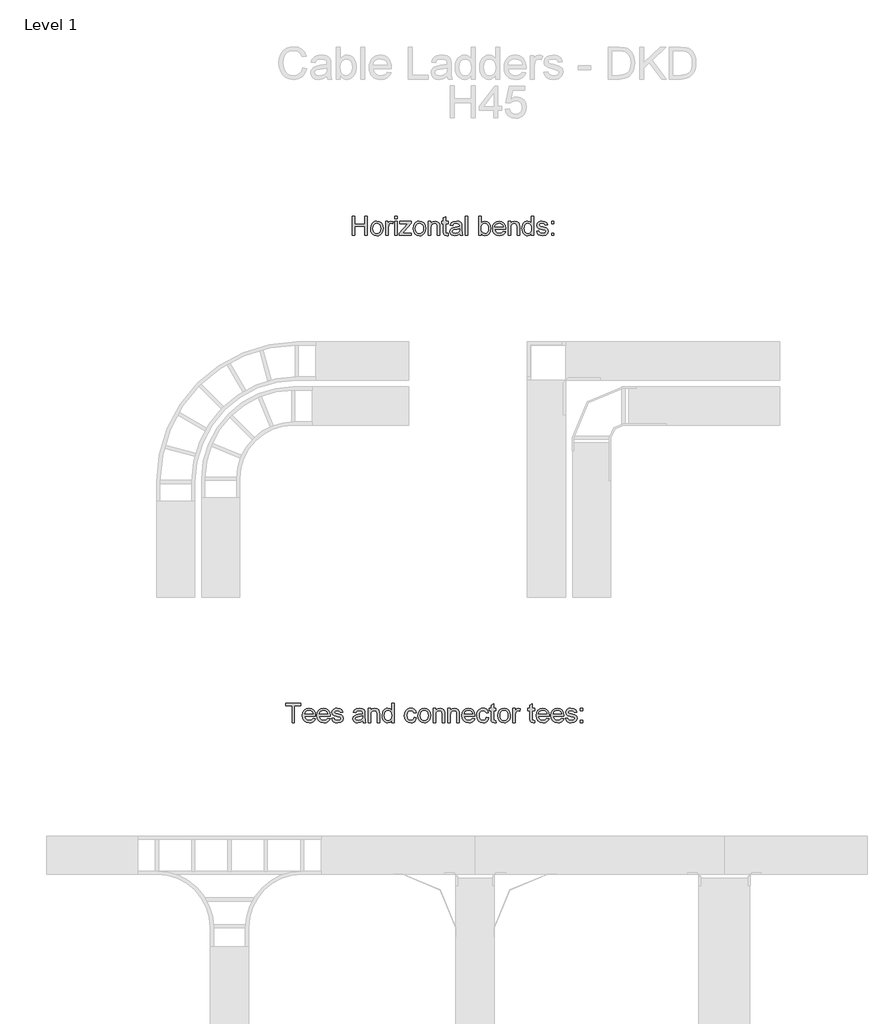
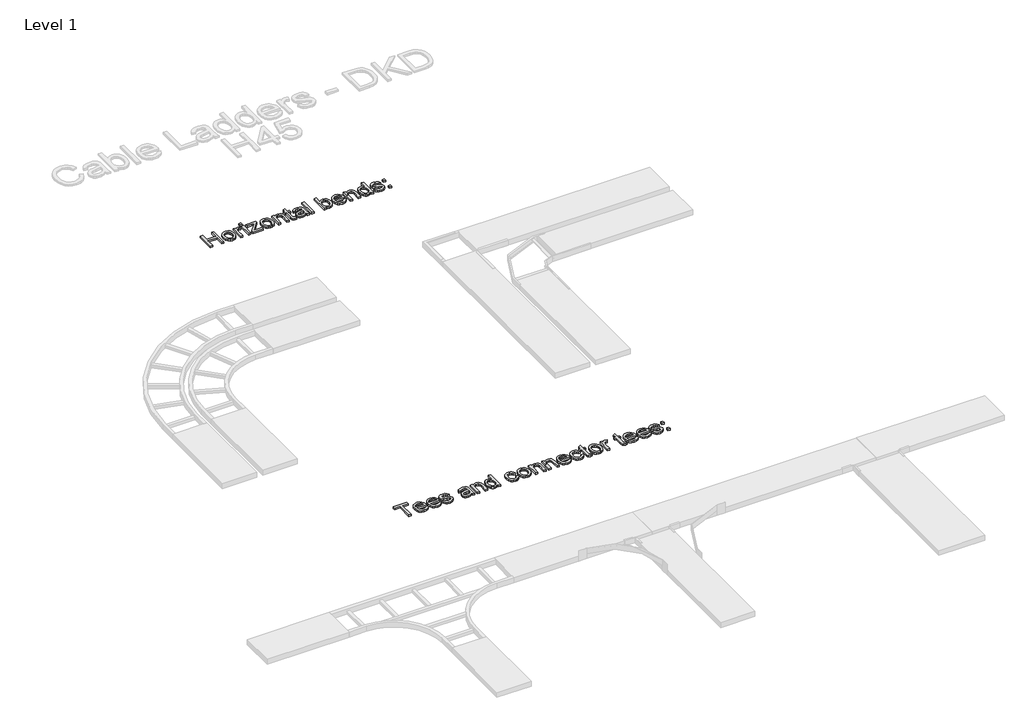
# One storey, part 80 of 106: 2 proxies.
"""IFC4 building model written with IfcOpenShell, lengths in millimetres."""

import ifcopenshell
import ifcopenshell.guid

model = None  # the IFC model being written
_history = None  # IfcOwnerHistory: only IFC2X3 demands one
_inside = {}  # id of a spatial element -> (the spatial element, [elements in it])
_under = {}  # id of a project, library or spatial element -> (it, [spatial elements below it])
_declared = {}  # id of a project -> (the project, [libraries it declares])
_typed = {}  # id of a type object -> (the type object, [elements of that type])
_made_of = {}  # id of a material, layer set ... -> (it, [elements and type objects made of it])


def new_model(schema):
    """Start an empty IFC model of exactly this schema.

    Asked for "IFC4X3", IfcOpenShell would pick the latest addendum, in which some entities
    have other attributes; the version numbers below select the first issue.
    IFC2X3 requires an IfcOwnerHistory on every rooted entity: one is made here for all.
    """
    global model, _history
    if schema == "IFC4X3":
        model = ifcopenshell.file(schema_version=(4, 3, 0, 0))
    else:
        model = ifcopenshell.file(schema=schema)
    _inside.clear()
    _under.clear()
    _declared.clear()
    _typed.clear()
    _made_of.clear()
    _history = None
    if model.schema == "IFC2X3":
        org = make("IfcOrganization", Name="unknown")
        user = make(
            "IfcPersonAndOrganization",
            ThePerson=make("IfcPerson", FamilyName="unknown"),
            TheOrganization=org,
        )
        app = make(
            "IfcApplication",
            ApplicationDeveloper=org,
            Version="unknown",
            ApplicationFullName="unknown",
            ApplicationIdentifier="unknown",
        )
        _history = make(
            "IfcOwnerHistory",
            OwningUser=user,
            OwningApplication=app,
            ChangeAction="ADDED",
            CreationDate=0,
        )
    return model


def make(cls, **values):
    """One entity of the class cls with the attributes given. An attribute that is None is left unset."""
    return model.create_entity(
        cls, **{name: value for name, value in values.items() if value is not None}
    )


def rooted(cls, **values):
    """An entity with a GlobalId (a new one), such as an element, a storey or a relation."""
    return make(cls, GlobalId=ifcopenshell.guid.new(), OwnerHistory=_history, **values)


def si_unit(unit_type, name, prefix=None):
    """IfcSIUnit, for example si_unit("LENGTHUNIT", "METRE", prefix="MILLI")."""
    return make("IfcSIUnit", UnitType=unit_type, Prefix=prefix, Name=name)


def assignment(units):
    """IfcUnitAssignment: the units of a project."""
    return None if units is None else make("IfcUnitAssignment", Units=units)


def point(xyz):
    """IfcCartesianPoint."""
    return None if xyz is None else make("IfcCartesianPoint", Coordinates=xyz)


def direction(xyz):
    """IfcDirection."""
    return None if xyz is None else make("IfcDirection", DirectionRatios=xyz)


def frame(location, z_axis=None, x_axis=None):
    """IfcAxis2Placement3D, a coordinate frame: its origin and axes. An axis left out is left unset."""
    return make(
        "IfcAxis2Placement3D",
        Location=point(location),
        Axis=direction(z_axis),
        RefDirection=direction(x_axis),
    )


def origin():
    """The frame at (0, 0, 0) with its axes left unset."""
    return frame((0.0, 0.0, 0.0))


def origin_with_axes():
    """The frame at (0, 0, 0) with the z axis (0, 0, 1) and the x axis (1, 0, 0) written out."""
    return frame((0.0, 0.0, 0.0), z_axis=(0.0, 0.0, 1.0), x_axis=(1.0, 0.0, 0.0))


def place(relative_to, where):
    """IfcLocalPlacement: puts the frame where relative to a parent placement (None: the world)."""
    return make(
        "IfcLocalPlacement", PlacementRelTo=relative_to, RelativePlacement=where
    )


def context(
    kind, dimensions, precision=None, world=None, true_north=None, identifier=None
):
    """IfcGeometricRepresentationContext, for example the 3D "Model" context."""
    return make(
        "IfcGeometricRepresentationContext",
        ContextIdentifier=identifier,
        ContextType=kind,
        CoordinateSpaceDimension=dimensions,
        Precision=precision,
        WorldCoordinateSystem=world,
        TrueNorth=true_north,
    )


def project(units=None, contexts=None):
    """IfcProject with its units and contexts."""
    return rooted(
        "IfcProject",
        Name="project",
        RepresentationContexts=contexts,
        UnitsInContext=assignment(units),
    )


def spatial(cls, under=None, at=None, **own):
    """A site, building, storey or space (cls), placed at a placement, below another one or the project."""
    s = rooted(cls, ObjectPlacement=at, **own)
    if under is not None:
        _under.setdefault(under.id(), (under, []))[1].append(s)
    return s


def polyline(points):
    """IfcPolyline through the points."""
    return make("IfcPolyline", Points=[point(p) for p in points])


def outline(outer, holes=None, kind="AREA"):
    """IfcArbitraryClosedProfileDef: a profile drawn as a closed curve; with holes, ...WithVoids."""
    if holes is None:
        return make("IfcArbitraryClosedProfileDef", ProfileType=kind, OuterCurve=outer)
    return make(
        "IfcArbitraryProfileDefWithVoids",
        ProfileType=kind,
        OuterCurve=outer,
        InnerCurves=holes,
    )


def extrude(swept, where, along, depth):
    """IfcExtrudedAreaSolid: the profile swept, set in the frame where, extruded along a direction by depth."""
    return make(
        "IfcExtrudedAreaSolid",
        SweptArea=swept,
        Position=where,
        ExtrudedDirection=direction(along),
        Depth=depth,
    )


def shape(context_of_items, identifier, shape_type, items):
    """IfcShapeRepresentation: the items that make up one representation, for example the "Body"."""
    return make(
        "IfcShapeRepresentation",
        ContextOfItems=context_of_items,
        RepresentationIdentifier=identifier,
        RepresentationType=shape_type,
        Items=items,
    )


def made_of(thing, what):
    """Note that an element or type object is made of a material, layer set ...; save() writes the relation."""
    if what is not None:
        _made_of.setdefault(what.id(), (what, []))[1].append(thing)
    return thing


def element(
    cls,
    number,
    at=None,
    inside=None,
    cuts=None,
    type_object=None,
    material=None,
    context=None,
    identifier="Body",
    shape_type=None,
    held_by="IfcProductDefinitionShape",
    body=None,
    shapes=None,
    **own,
):
    """One element of the class cls, such as IfcWall. Its Tag is "e" and its number.

    at: its placement. inside: the storey or other place that contains it. cuts: it is an
    opening in that element (IfcRelVoidsElement). A single representation is given by context,
    identifier, shape_type and body (its items); several are given by shapes. held_by: the class
    of the entity that holds the representations. save() writes the other relations.
    """
    e = rooted(cls, Tag="e%d" % number, ObjectPlacement=at, **own)
    if body is not None:
        shapes = [shape(context, identifier, shape_type, body)]
    if shapes is not None:
        e.Representation = make(held_by, Representations=shapes)
    if inside is not None:
        _inside.setdefault(inside.id(), (inside, []))[1].append(e)
    if cuts is not None:
        rooted(
            "IfcRelVoidsElement", RelatingBuildingElement=cuts, RelatedOpeningElement=e
        )
    if type_object is not None:
        _typed.setdefault(type_object.id(), (type_object, []))[1].append(e)
    return made_of(e, material)


def aggregate(whole, parts):
    """IfcRelAggregates: a whole, such as a stair, and the parts it consists of."""
    return rooted("IfcRelAggregates", RelatingObject=whole, RelatedObjects=parts)


def save(model, path):
    """Write the relations noted so far, then the file.

    IfcRelAggregates (storeys below a building ...), IfcRelContainedInSpatialStructure (elements
    in a storey), IfcRelDefinesByType, IfcRelAssociatesMaterial and IfcRelDeclares: one each for
    every whole, place, type object, material and project.
    """
    for whole, parts in _under.values():
        aggregate(whole, parts)
    for where, things in _inside.values():
        rooted(
            "IfcRelContainedInSpatialStructure",
            RelatedElements=things,
            RelatingStructure=where,
        )
    for kind, things in _typed.values():
        rooted("IfcRelDefinesByType", RelatedObjects=things, RelatingType=kind)
    for what, things in _made_of.values():
        rooted("IfcRelAssociatesMaterial", RelatedObjects=things, RelatingMaterial=what)
    for by, libraries in _declared.values():
        rooted("IfcRelDeclares", RelatingContext=by, RelatedDefinitions=libraries)
    model.write(path)


model = new_model("IFC4")

# Units and contexts
model_context = context("Model", 3, world=origin())
ifc_project = project(units=[si_unit("LENGTHUNIT", "METRE", prefix="MILLI")], contexts=[model_context])

# Site, building, storey
site = spatial("IfcSite", under=ifc_project)
building = spatial("IfcBuilding", under=site)
storey = spatial("IfcBuildingStorey", under=building, Name="Level 1", Elevation=0.0)

# Proxies
placement = place(None, origin())
element("IfcBuildingElementProxy", 1, Name="150mm Arial 2", ObjectType="150mm Arial 2", at=placement, inside=storey, context=model_context, shape_type="SweptSolid", body=[
    extrude(outline(polyline([(29365.8833156, 70274.2713912), (29365.8833156, 70424.9558564), (29384.7188737, 70424.9558564), (29384.7188737, 70363.7402924), (29464.7699959, 70363.7402924), (29464.7699959, 70424.9558564), (29483.605554, 70424.9558564), (29483.605554, 70274.2713912), (29464.7699959, 70274.2713912), (29464.7699959, 70344.9047343), (29384.7188737, 70344.9047343), (29384.7188737, 70274.2713912), (29365.8833156, 70274.2713912)])), origin_with_axes(), (0.0, 0.0, 1.0), 15.0),
    extrude(outline(polyline([(29509.5044465, 70329.6008433), (29513.5787396, 70356.281485), (29525.8016189, 70375.0342697), (29540.9031748, 70384.2221225), (29558.9845748, 70387.2847401), (29578.7720277, 70383.5553364), (29594.5771579, 70372.3671252), (29604.9376346, 70354.6030234), (29608.3911268, 70331.1459476), (29606.8644165, 70312.1172514), (29602.2842857, 70297.6318979), (29594.7840915, 70286.7839775), (29584.4971912, 70278.667581), (29572.2789104, 70273.6046051), (29558.9845748, 70271.9169464), (29538.9579987, 70275.6325546), (29523.1712626, 70286.779379), (29512.9211505, 70304.9159614), (29509.5044465, 70329.6008433)]), holes=[polyline([(29528.3400046, 70329.6376315), (29530.5197055, 70312.5908995), (29537.0588079, 70300.4461951), (29546.8996513, 70293.1759272), (29558.9845748, 70290.7525046), (29571.0143161, 70293.1897228), (29580.8367654, 70300.5013774), (29587.3758678, 70312.8070302), (29589.5555686, 70330.2262427), (29587.3620722, 70346.7763339), (29580.7815831, 70358.7554914), (29570.9453382, 70366.0257593), (29558.9845748, 70368.449182), (29546.8996513, 70366.0349564), (29537.0588079, 70358.7922796), (29530.5197055, 70346.6751664), (29528.3400046, 70329.6376315)])]), origin_with_axes(), (0.0, 0.0, 1.0), 15.0),
    extrude(outline(polyline([(29629.5811297, 70274.2713912), (29629.5811297, 70384.9302953), (29646.0622431, 70384.9302953), (29646.0622431, 70368.5595466), (29657.7608906, 70383.6427084), (29669.5331144, 70387.2847401), (29688.4422489, 70381.4722046), (29682.1514668, 70364.586421), (29668.907715, 70368.449182), (29658.2575312, 70364.7335738), (29651.4701084, 70354.4328779), (29648.4166879, 70332.4335346), (29648.4166879, 70274.2713912), (29629.5811297, 70274.2713912)])), origin_with_axes(), (0.0, 0.0, 1.0), 15.0),
    extrude(outline(polyline([(29700.2144728, 70406.1202983), (29700.2144728, 70424.9558564), (29719.0500309, 70424.9558564), (29719.0500309, 70406.1202983), (29700.2144728, 70406.1202983)])), origin_with_axes(), (0.0, 0.0, 1.0), 15.0),
    extrude(outline(polyline([(29700.2144728, 70274.2713912), (29700.2144728, 70384.9302953), (29719.0500309, 70384.9302953), (29719.0500309, 70274.2713912), (29700.2144728, 70274.2713912)])), origin_with_axes(), (0.0, 0.0, 1.0), 15.0),
    extrude(outline(polyline([(29735.5311443, 70274.2713912), (29735.5311443, 70292.0033034), (29800.5358929, 70366.0947372), (29781.2956645, 70366.0947372), (29740.2400339, 70366.0947372), (29740.2400339, 70384.9302953), (29827.3544903, 70384.9302953), (29827.3544903, 70368.9274285), (29769.7073817, 70303.186916), (29760.8782138, 70293.1069493), (29782.6568279, 70293.1069493), (29829.7089351, 70293.1069493), (29829.7089351, 70274.2713912), (29735.5311443, 70274.2713912)])), origin_with_axes(), (0.0, 0.0, 1.0), 15.0),
    extrude(outline(polyline([(29843.8356037, 70329.6008433), (29847.9098968, 70356.281485), (29860.1327761, 70375.0342697), (29875.234332, 70384.2221225), (29893.3157321, 70387.2847401), (29913.1031849, 70383.5553364), (29928.9083151, 70372.3671252), (29939.2687918, 70354.6030234), (29942.722284, 70331.1459476), (29941.1955737, 70312.1172514), (29936.6154429, 70297.6318979), (29929.1152487, 70286.7839775), (29918.8283484, 70278.667581), (29906.6100677, 70273.6046051), (29893.3157321, 70271.9169464), (29873.2891559, 70275.6325546), (29857.5024198, 70286.779379), (29847.2523077, 70304.9159614), (29843.8356037, 70329.6008433)]), holes=[polyline([(29862.6711619, 70329.6376315), (29864.8508627, 70312.5908995), (29871.3899651, 70300.4461951), (29881.2308085, 70293.1759272), (29893.3157321, 70290.7525046), (29905.3454733, 70293.1897228), (29915.1679226, 70300.5013774), (29921.707025, 70312.8070302), (29923.8867259, 70330.2262427), (29921.6932295, 70346.7763339), (29915.1127403, 70358.7554914), (29905.2764954, 70366.0257593), (29893.3157321, 70368.449182), (29881.2308085, 70366.0349564), (29871.3899651, 70358.7922796), (29864.8508627, 70346.6751664), (29862.6711619, 70329.6376315)])]), origin_with_axes(), (0.0, 0.0, 1.0), 15.0),
    extrude(outline(polyline([(29963.9122869, 70274.2713912), (29963.9122869, 70384.9302953), (29982.7478451, 70384.9302953), (29982.7478451, 70369.4792515), (29997.1504252, 70382.833368), (30016.8137178, 70387.2847401), (30034.6008123, 70383.6978907), (30046.7409182, 70374.2801116), (30052.3879068, 70360.4293545), (30053.3811882, 70342.2191957), (30053.3811882, 70274.2713912), (30034.54563, 70274.2713912), (30034.54563, 70339.6808099), (30032.3751262, 70356.3458643), (30024.7047866, 70365.1566381), (30011.7737345, 70368.449182), (30000.7418732, 70366.6005749), (29991.3378897, 70361.0547538), (29984.8953562, 70350.3401907), (29982.7478451, 70332.9853576), (29982.7478451, 70274.2713912), (29963.9122869, 70274.2713912)])), origin_with_axes(), (0.0, 0.0, 1.0), 15.0),
    extrude(outline(polyline([(30119.3056417, 70289.9799524), (30121.6600865, 70273.7195682), (30107.5702061, 70271.9169464), (30091.7880685, 70275.0439434), (30083.9153938, 70283.2477119), (30081.6345254, 70304.6216558), (30081.6345254, 70366.0947372), (30067.5078568, 70366.0947372), (30067.5078568, 70384.9302953), (30081.6345254, 70384.9302953), (30081.6345254, 70411.8224692), (30100.4700835, 70422.8957172), (30100.4700835, 70384.9302953), (30119.3056417, 70384.9302953), (30119.3056417, 70366.0947372), (30100.4700835, 70366.0947372), (30100.4700835, 70305.1734788), (30101.4633649, 70295.4613941), (30104.6823324, 70292.0216975), (30111.1018732, 70290.7525046), (30119.3056417, 70289.9799524)])), origin_with_axes(), (0.0, 0.0, 1.0), 15.0),
    extrude(outline(polyline([(30208.7745429, 70288.3980598), (30190.5092019, 70275.6325546), (30170.3308744, 70271.9169464), (30154.5901236, 70274.1518295), (30142.9788481, 70280.8564789), (30135.8189448, 70291.0376131), (30133.4323103, 70303.7019508), (30137.0375539, 70318.6011716), (30146.5105152, 70329.4169023), (30159.6990848, 70335.5973198), (30175.9962572, 70338.4300111), (30208.6641783, 70344.9047343), (30208.7745429, 70349.098589), (30207.4777589, 70357.5046926), (30203.5874068, 70363.0045284), (30194.8869976, 70367.0880186), (30182.7652859, 70368.449182), (30163.7089985, 70364.8255443), (30154.6223132, 70351.9680686), (30135.7867551, 70354.3225133), (30143.9353413, 70372.7166131), (30160.3428783, 70383.4955556), (30185.193307, 70387.2847401), (30208.0203848, 70383.9370139), (30220.9146488, 70375.5309104), (30226.6903961, 70362.747011), (30227.6101011, 70346.2658976), (30227.6101011, 70322.8318146), (30228.5665943, 70290.1087111), (30232.3189906, 70274.2713912), (30213.4834325, 70274.2713912), (30208.7745429, 70288.3980598)]), holes=[polyline([(30208.7745429, 70326.0691761), (30178.3874901, 70320.2934288), (30162.1822882, 70317.2400082), (30154.8430424, 70312.2736013), (30152.2678685, 70305.026326), (30157.8780689, 70294.8359947), (30174.3407882, 70290.7525046), (30193.3970755, 70295.259059), (30205.6843342, 70306.1667602), (30208.6641783, 70320.7348872), (30208.7745429, 70326.0691761)])]), origin_with_axes(), (0.0, 0.0, 1.0), 15.0),
    extrude(outline(polyline([(30253.5089935, 70274.2713912), (30253.5089935, 70424.9558564), (30272.3445517, 70424.9558564), (30272.3445517, 70274.2713912), (30253.5089935, 70274.2713912)])), origin_with_axes(), (0.0, 0.0, 1.0), 15.0),
    extrude(outline(polyline([(30378.2945663, 70274.2713912), (30359.4590082, 70274.2713912), (30359.4590082, 70424.9558564), (30378.2945663, 70424.9558564), (30378.2945663, 70369.0745813), (30391.4831358, 70382.7322004), (30407.8722787, 70387.2847401), (30426.7446251, 70383.1828559), (30441.3863285, 70371.6497553), (30450.3810433, 70353.715508), (30453.6367989, 70331.2563122), (30450.2660801, 70306.1115779), (30440.1539238, 70287.4047784), (30425.3144838, 70275.7889044), (30407.7619141, 70271.9169464), (30391.0140863, 70276.9109445), (30378.2945663, 70291.8929388), (30378.2945663, 70274.2713912)]), holes=[polyline([(30378.2945663, 70330.3733955), (30379.5821533, 70314.6648343), (30383.4449142, 70304.0330446), (30393.3133488, 70294.0726396), (30406.1432333, 70290.7525046), (30417.0141463, 70293.1989198), (30426.3031667, 70300.5381656), (30432.6767222, 70312.7242567), (30434.8012408, 70329.7112079), (30432.7640942, 70346.9464793), (30426.6526546, 70358.9946147), (30417.6533413, 70366.0855401), (30406.9525737, 70368.449182), (30396.0816608, 70366.0027667), (30386.7926404, 70358.6635209), (30380.4190848, 70346.698159), (30378.2945663, 70330.3733955)])]), origin_with_axes(), (0.0, 0.0, 1.0), 15.0),
    extrude(outline(polyline([(30552.30275, 70307.233618), (30570.7704262, 70304.8791732), (30564.1163606, 70290.9640367), (30553.4983665, 70280.5621733), (30539.1555672, 70274.0782531), (30521.327086, 70271.9169464), (30499.2265752, 70275.6463501), (30482.2212299, 70286.8345613), (30471.3779081, 70304.755013), (30467.7634675, 70328.6811383), (30471.4146963, 70353.4120054), (30482.3683827, 70371.9072727), (30499.1438017, 70383.4403733), (30520.2602282, 70387.2847401), (30540.7190657, 70383.4495703), (30557.0668219, 70371.9440609), (30567.7859835, 70353.4855818), (30571.3590374, 70328.7915029), (30571.2486728, 70323.7147313), (30486.5990257, 70323.7147313), (30489.8593799, 70309.6156539), (30497.4331504, 70299.2505787), (30508.3638442, 70292.8770231), (30521.694968, 70290.7525046), (30540.1626442, 70294.6888419), (30552.30275, 70307.233618)]), holes=[polyline([(30486.5990257, 70342.5502895), (30552.5234792, 70342.5502895), (30549.9758964, 70352.5014975), (30544.9818983, 70359.6200141), (30534.0006208, 70366.24189), (30520.1866518, 70368.449182), (30507.4901245, 70366.6879469), (30496.991692, 70361.4042417), (30489.693833, 70353.1682836), (30486.5990257, 70342.5502895)])]), origin_with_axes(), (0.0, 0.0, 1.0), 15.0),
    extrude(outline(polyline([(30590.1945955, 70274.2713912), (30590.1945955, 70384.9302953), (30609.0301537, 70384.9302953), (30609.0301537, 70369.4792515), (30623.4327338, 70382.833368), (30643.0960264, 70387.2847401), (30660.8831209, 70383.6978907), (30673.0232267, 70374.2801116), (30678.6702154, 70360.4293545), (30679.6634968, 70342.2191957), (30679.6634968, 70274.2713912), (30660.8279386, 70274.2713912), (30660.8279386, 70339.6808099), (30658.6574348, 70356.3458643), (30650.9870952, 70365.1566381), (30638.0560431, 70368.449182), (30627.0241818, 70366.6005749), (30617.6201983, 70361.0547538), (30611.1776648, 70350.3401907), (30609.0301537, 70332.9853576), (30609.0301537, 70274.2713912), (30590.1945955, 70274.2713912)])), origin_with_axes(), (0.0, 0.0, 1.0), 15.0),
    extrude(outline(polyline([(30773.8412875, 70274.2713912), (30773.8412875, 70292.0400916), (30761.3792849, 70276.9477327), (30744.1532105, 70271.9169464), (30731.9763165, 70273.7379623), (30720.829492, 70279.2010099), (30711.3933188, 70287.9244117), (30704.3483786, 70299.5264902), (30699.9613858, 70313.5381956), (30698.4990549, 70329.4904787), (30703.8885261, 70359.4728613), (30710.6207666, 70371.3646468), (30720.0385457, 70380.1110412), (30731.429092, 70385.4913154), (30744.0796341, 70387.2847401), (30761.4436643, 70382.1527863), (30773.8412875, 70368.8170639), (30773.8412875, 70424.9558564), (30792.6768457, 70424.9558564), (30792.6768457, 70274.2713912), (30773.8412875, 70274.2713912)]), holes=[polyline([(30717.3346131, 70329.5640551), (30719.4591316, 70312.5265202), (30725.8326871, 70300.4094069), (30735.0941164, 70293.1667302), (30745.8822559, 70290.7525046), (30756.6657969, 70293.0563656), (30765.6927013, 70299.9679485), (30771.804141, 70311.6160122), (30773.8412875, 70328.1293153), (30771.7673528, 70346.1831242), (30765.5455485, 70358.7003091), (30756.2887178, 70366.0119637), (30745.1097037, 70368.449182), (30734.2111996, 70366.1085328), (30725.2808642, 70359.0865852), (30719.3211758, 70347.0246543), (30717.3346131, 70329.5640551)])]), origin_with_axes(), (0.0, 0.0, 1.0), 15.0),
    extrude(outline(polyline([(30813.8668486, 70307.233618), (30832.7024067, 70309.5880627), (30835.6730539, 70301.531447), (30841.42121, 70295.6085469), (30861.3972024, 70290.7525046), (30880.6006425, 70295.2038767), (30886.8546364, 70305.6517254), (30885.2819409, 70310.4525854), (30880.5638543, 70314.1130113), (30861.1764732, 70319.4840884), (30832.8127713, 70328.6995324), (30820.4335422, 70339.4600807), (30816.2212934, 70354.6536071), (30819.6058077, 70368.6883052), (30828.8396458, 70379.4120654), (30840.8142047, 70384.9854776), (30857.0194066, 70387.2847401), (30879.9384549, 70383.5875261), (30894.5065819, 70373.5811358), (30900.9813051, 70356.6769581), (30882.1457469, 70354.3225133), (30875.0640185, 70364.7151797), (30858.4909346, 70368.449182), (30840.4647168, 70364.8807266), (30835.0568515, 70356.5665935), (30837.3009317, 70351.0851518), (30844.3274778, 70346.9280852), (30860.5510738, 70342.9181715), (30888.1974057, 70334.0522154), (30901.0364873, 70324.0090369), (30905.6901946, 70307.6382881), (30900.227147, 70289.6120704), (30884.4634035, 70276.5338655), (30861.139685, 70271.9169464), (30842.147777, 70274.1426325), (30828.2878228, 70280.8196907), (30819.0355906, 70291.8745447), (30813.8668486, 70307.233618)])), origin_with_axes(), (0.0, 0.0, 1.0), 15.0),
    extrude(outline(polyline([(30931.589087, 70366.0947372), (30931.589087, 70384.9302953), (30950.4246452, 70384.9302953), (30950.4246452, 70366.0947372), (30931.589087, 70366.0947372)])), origin_with_axes(), (0.0, 0.0, 1.0), 15.0),
    extrude(outline(polyline([(30931.589087, 70274.2713912), (30931.589087, 70293.1069493), (30950.4246452, 70293.1069493), (30950.4246452, 70274.2713912), (30931.589087, 70274.2713912)])), origin_with_axes(), (0.0, 0.0, 1.0), 15.0),
])
element("IfcBuildingElementProxy", 2, Name="150mm Arial 2", ObjectType="150mm Arial 2", at=placement, inside=storey, context=model_context, shape_type="SweptSolid", body=[
    extrude(outline(polyline([(28893.3276619, 66447.8476348), (28893.3276619, 66579.6965419), (28843.8843218, 66579.6965419), (28843.8843218, 66598.5321), (28961.6065602, 66598.5321), (28961.6065602, 66579.6965419), (28912.1632201, 66579.6965419), (28912.1632201, 66447.8476348), (28893.3276619, 66447.8476348)])), origin_with_axes(), (0.0, 0.0, 1.0), 15.0),
    extrude(outline(polyline([(29057.9180666, 66480.8098615), (29076.3857427, 66478.4554168), (29069.7316771, 66464.5402803), (29059.1136831, 66454.1384169), (29044.7708838, 66447.6544967), (29026.9424026, 66445.49319), (29004.8418917, 66449.2225937), (28987.8365465, 66460.4108049), (28976.9932247, 66478.3312566), (28973.3787841, 66502.2573819), (28977.0300129, 66526.988249), (28987.9836993, 66545.4835163), (29004.7591183, 66557.0166168), (29025.8755448, 66560.8609837), (29046.3343822, 66557.0258139), (29062.6821384, 66545.5203045), (29073.4013, 66527.0618254), (29076.9743539, 66502.3677465), (29076.8639893, 66497.2909749), (28992.2143422, 66497.2909749), (28995.4746964, 66483.1918975), (29003.048467, 66472.8268223), (29013.9791608, 66466.4532667), (29027.3102846, 66464.3287482), (29045.7779607, 66468.2650855), (29057.9180666, 66480.8098615)]), holes=[polyline([(28992.2143422, 66516.1265331), (29058.1387958, 66516.1265331), (29055.5912129, 66526.0777411), (29050.5972149, 66533.1962577), (29039.6159373, 66539.8181336), (29025.8019684, 66542.0254255), (29013.105441, 66540.2641905), (29002.6070086, 66534.9804853), (28995.3091495, 66526.7445272), (28992.2143422, 66516.1265331)])]), origin_with_axes(), (0.0, 0.0, 1.0), 15.0),
    extrude(outline(polyline([(29173.2858603, 66480.8098615), (29191.7535364, 66478.4554168), (29185.0994708, 66464.5402803), (29174.4814767, 66454.1384169), (29160.1386775, 66447.6544967), (29142.3101963, 66445.49319), (29120.2096854, 66449.2225937), (29103.2043402, 66460.4108049), (29092.3610184, 66478.3312566), (29088.7465778, 66502.2573819), (29092.3978066, 66526.988249), (29103.351493, 66545.4835163), (29120.126912, 66557.0166168), (29141.2433385, 66560.8609837), (29161.7021759, 66557.0258139), (29178.0499321, 66545.5203045), (29188.7690937, 66527.0618254), (29192.3421476, 66502.3677465), (29192.231783, 66497.2909749), (29107.5821359, 66497.2909749), (29110.8424901, 66483.1918975), (29118.4162607, 66472.8268223), (29129.3469545, 66466.4532667), (29142.6780783, 66464.3287482), (29161.1457544, 66468.2650855), (29173.2858603, 66480.8098615)]), holes=[polyline([(29107.5821359, 66516.1265331), (29173.5065895, 66516.1265331), (29170.9590066, 66526.0777411), (29165.9650086, 66533.1962577), (29154.983731, 66539.8181336), (29141.1697621, 66542.0254255), (29128.4732347, 66540.2641905), (29117.9748023, 66534.9804853), (29110.6769432, 66526.7445272), (29107.5821359, 66516.1265331)])]), origin_with_axes(), (0.0, 0.0, 1.0), 15.0),
    extrude(outline(polyline([(29204.1143715, 66480.8098615), (29222.9499296, 66483.1643063), (29225.9205767, 66475.1076906), (29231.6687329, 66469.1847905), (29251.6447252, 66464.3287482), (29270.8481654, 66468.7801203), (29277.1021593, 66479.227969), (29275.5294638, 66484.028829), (29270.8113772, 66487.6892549), (29251.423996, 66493.060332), (29223.0602942, 66502.275776), (29210.6810651, 66513.0363243), (29206.4688162, 66528.2298507), (29209.8533306, 66542.2645488), (29219.0871687, 66552.988309), (29231.0617276, 66558.5617212), (29247.2669295, 66560.8609837), (29270.1859778, 66557.1637696), (29284.7541048, 66547.1573794), (29291.2288279, 66530.2532017), (29272.3932698, 66527.8987569), (29265.3115413, 66538.2914233), (29248.7384575, 66542.0254255), (29230.7122397, 66538.4569702), (29225.3043744, 66530.1428371), (29227.5484545, 66524.6613954), (29234.5750007, 66520.5043288), (29250.7985966, 66516.4944151), (29278.4449286, 66507.628459), (29291.2840102, 66497.5852805), (29295.9377174, 66481.2145317), (29290.4746698, 66463.188314), (29274.7109263, 66450.1101091), (29251.3872078, 66445.49319), (29232.3952998, 66447.7188761), (29218.5353457, 66454.3959343), (29209.2831135, 66465.4507882), (29204.1143715, 66480.8098615)])), origin_with_axes(), (0.0, 0.0, 1.0), 15.0),
    extrude(outline(polyline([(29446.6221827, 66461.9743034), (29428.3568416, 66449.2087982), (29408.1785142, 66445.49319), (29392.4377633, 66447.7280731), (29380.8264878, 66454.4327225), (29373.6665845, 66464.6138567), (29371.2799501, 66477.2781944), (29374.8851936, 66492.1774152), (29384.358155, 66502.9931459), (29397.5467245, 66509.1735634), (29413.8438969, 66512.0062547), (29446.5118181, 66518.4809779), (29446.6221827, 66522.6748326), (29445.3253986, 66531.0809362), (29441.4350465, 66536.580772), (29432.7346374, 66540.6642622), (29420.6129256, 66542.0254255), (29401.5566383, 66538.4017879), (29392.469953, 66525.5443122), (29373.6343948, 66527.8987569), (29381.782981, 66546.2928567), (29398.190518, 66557.0717991), (29423.0409468, 66560.8609837), (29445.8680246, 66557.5132575), (29458.7622885, 66549.107154), (29464.5380358, 66536.3232546), (29465.4577408, 66519.8421412), (29465.4577408, 66496.4080581), (29466.414234, 66463.6849547), (29470.1666304, 66447.8476348), (29451.3310722, 66447.8476348), (29446.6221827, 66461.9743034)]), holes=[polyline([(29446.6221827, 66499.6454197), (29416.2351299, 66493.8696724), (29400.029928, 66490.8162518), (29392.6906822, 66485.8498449), (29390.1155082, 66478.6025696), (29395.7257086, 66468.4122383), (29412.1884279, 66464.3287482), (29431.2447153, 66468.8353026), (29443.5319739, 66479.7430038), (29446.5118181, 66494.3111308), (29446.6221827, 66499.6454197)])]), origin_with_axes(), (0.0, 0.0, 1.0), 15.0),
    extrude(outline(polyline([(29491.3566333, 66447.8476348), (29491.3566333, 66558.5065389), (29510.1921914, 66558.5065389), (29510.1921914, 66543.0554951), (29524.5947715, 66556.4096116), (29544.2580642, 66560.8609837), (29562.0451587, 66557.2741342), (29574.1852645, 66547.8563552), (29579.8322531, 66534.0055981), (29580.8255345, 66515.7954393), (29580.8255345, 66447.8476348), (29561.9899764, 66447.8476348), (29561.9899764, 66513.2570535), (29559.8194726, 66529.9221079), (29552.149133, 66538.7328817), (29539.2180809, 66542.0254255), (29528.1862195, 66540.1768185), (29518.782236, 66534.6309974), (29512.3397026, 66523.9164343), (29510.1921914, 66506.5616012), (29510.1921914, 66447.8476348), (29491.3566333, 66447.8476348)])), origin_with_axes(), (0.0, 0.0, 1.0), 15.0),
    extrude(outline(polyline([(29675.0033253, 66447.8476348), (29675.0033253, 66465.6163351), (29662.5413227, 66450.5239763), (29645.3152483, 66445.49319), (29633.1383542, 66447.3142059), (29621.9915298, 66452.7772535), (29612.5553566, 66461.5006553), (29605.5104164, 66473.1027337), (29601.1234236, 66487.1144392), (29599.6610927, 66503.0667223), (29605.0505639, 66533.0491049), (29611.7828044, 66544.9408904), (29621.2005835, 66553.6872848), (29632.5911298, 66559.067559), (29645.2416719, 66560.8609837), (29662.605702, 66555.7290299), (29675.0033253, 66542.3933075), (29675.0033253, 66598.5321), (29693.8388834, 66598.5321), (29693.8388834, 66447.8476348), (29675.0033253, 66447.8476348)]), holes=[polyline([(29618.4966508, 66503.1402987), (29620.6211693, 66486.1027638), (29626.9947249, 66473.9856505), (29636.2561541, 66466.7429738), (29647.0442936, 66464.3287482), (29657.8278346, 66466.6326092), (29666.8547391, 66473.5441921), (29672.9661787, 66485.1922558), (29675.0033253, 66501.7055589), (29672.9293905, 66519.7593678), (29666.7075863, 66532.2765527), (29657.4507556, 66539.5882073), (29646.2717415, 66542.0254255), (29635.3732373, 66539.6847764), (29626.4429019, 66532.6628288), (29620.4832136, 66520.6008979), (29618.4966508, 66503.1402987)])]), origin_with_axes(), (0.0, 0.0, 1.0), 15.0),
    extrude(outline(polyline([(29851.586683, 66487.8731959), (29870.4222411, 66485.5187511), (29865.1707256, 66468.7663247), (29855.3022911, 66456.1065856), (29841.7458396, 66448.1465389), (29825.4302731, 66445.49319), (29805.3944999, 66449.1950026), (29789.7273255, 66460.3004403), (29779.6151691, 66478.3220596), (29776.2444503, 66502.7724167), (29777.6837887, 66519.5340401), (29782.0018036, 66534.0607803), (29789.267473, 66545.7916175), (29799.5497747, 66554.1655314), (29811.850829, 66559.1871206), (29825.1727557, 66560.8609837), (29841.0882505, 66558.5617212), (29853.812369, 66551.6639338), (29862.940441, 66540.5355035), (29868.0677963, 66525.5443122), (29849.2322382, 66523.1898674), (29840.4950408, 66537.2981419), (29825.3199085, 66542.0254255), (29813.147613, 66539.6985719), (29803.4861121, 66532.7180111), (29797.1815344, 66520.7066639), (29795.0800085, 66503.2874515), (29797.1355492, 66485.6337142), (29803.3021711, 66473.5809803), (29812.788928, 66466.6418062), (29824.8048737, 66464.3287482), (29834.5583451, 66465.772685), (29842.55518, 66470.1044955), (29848.372314, 66477.4345442), (29851.586683, 66487.8731959)])), origin_with_axes(), (0.0, 0.0, 1.0), 15.0),
    extrude(outline(polyline([(29882.194465, 66503.1770869), (29886.2687581, 66529.8577286), (29898.4916373, 66548.6105133), (29913.5931932, 66557.7983661), (29931.6745933, 66560.8609837), (29951.4620461, 66557.13158), (29967.2671763, 66545.9433688), (29977.627653, 66528.179267), (29981.0811453, 66504.7221912), (29979.554435, 66485.693495), (29974.9743041, 66471.2081415), (29967.47411, 66460.3602211), (29957.1872097, 66452.2438246), (29944.9689289, 66447.1808487), (29931.6745933, 66445.49319), (29911.6480172, 66449.2087982), (29895.8612811, 66460.3556226), (29885.611169, 66478.492205), (29882.194465, 66503.1770869)]), holes=[polyline([(29901.0300231, 66503.2138751), (29903.2097239, 66486.1671431), (29909.7488264, 66474.0224387), (29919.5896698, 66466.7521708), (29931.6745933, 66464.3287482), (29943.7043346, 66466.7659664), (29953.5267838, 66474.077621), (29960.0658863, 66486.3832738), (29962.2455871, 66503.8024862), (29960.0520907, 66520.3525775), (29953.4716015, 66532.331735), (29943.6353567, 66539.6020029), (29931.6745933, 66542.0254255), (29919.5896698, 66539.6112), (29909.7488264, 66532.3685232), (29903.2097239, 66520.25141), (29901.0300231, 66503.2138751)])]), origin_with_axes(), (0.0, 0.0, 1.0), 15.0),
    extrude(outline(polyline([(30002.2711482, 66447.8476348), (30002.2711482, 66558.5065389), (30021.1067063, 66558.5065389), (30021.1067063, 66543.0554951), (30035.5092865, 66556.4096116), (30055.1725791, 66560.8609837), (30072.9596736, 66557.2741342), (30085.0997794, 66547.8563552), (30090.746768, 66534.0055981), (30091.7400494, 66515.7954393), (30091.7400494, 66447.8476348), (30072.9044913, 66447.8476348), (30072.9044913, 66513.2570535), (30070.7339875, 66529.9221079), (30063.0636479, 66538.7328817), (30050.1325958, 66542.0254255), (30039.1007344, 66540.1768185), (30029.6967509, 66534.6309974), (30023.2542175, 66523.9164343), (30021.1067063, 66506.5616012), (30021.1067063, 66447.8476348), (30002.2711482, 66447.8476348)])), origin_with_axes(), (0.0, 0.0, 1.0), 15.0),
    extrude(outline(polyline([(30117.6389419, 66447.8476348), (30117.6389419, 66558.5065389), (30136.4745, 66558.5065389), (30136.4745, 66543.0554951), (30150.8770801, 66556.4096116), (30170.5403728, 66560.8609837), (30188.3274672, 66557.2741342), (30200.4675731, 66547.8563552), (30206.1145617, 66534.0055981), (30207.1078431, 66515.7954393), (30207.1078431, 66447.8476348), (30188.2722849, 66447.8476348), (30188.2722849, 66513.2570535), (30186.1017812, 66529.9221079), (30178.4314416, 66538.7328817), (30165.5003894, 66542.0254255), (30154.4685281, 66540.1768185), (30145.0645446, 66534.6309974), (30138.6220112, 66523.9164343), (30136.4745, 66506.5616012), (30136.4745, 66447.8476348), (30117.6389419, 66447.8476348)])), origin_with_axes(), (0.0, 0.0, 1.0), 15.0),
    extrude(outline(polyline([(30310.4826837, 66480.8098615), (30328.9503599, 66478.4554168), (30322.2962943, 66464.5402803), (30311.6783002, 66454.1384169), (30297.3355009, 66447.6544967), (30279.5070198, 66445.49319), (30257.4065089, 66449.2225937), (30240.4011637, 66460.4108049), (30229.5578419, 66478.3312566), (30225.9434013, 66502.2573819), (30229.5946301, 66526.988249), (30240.5483165, 66545.4835163), (30257.3237354, 66557.0166168), (30278.440162, 66560.8609837), (30298.8989994, 66557.0258139), (30315.2467556, 66545.5203045), (30325.9659172, 66527.0618254), (30329.5389711, 66502.3677465), (30329.4286065, 66497.2909749), (30244.7789594, 66497.2909749), (30248.0393136, 66483.1918975), (30255.6130842, 66472.8268223), (30266.5437779, 66466.4532667), (30279.8749017, 66464.3287482), (30298.3425779, 66468.2650855), (30310.4826837, 66480.8098615)]), holes=[polyline([(30244.7789594, 66516.1265331), (30310.7034129, 66516.1265331), (30308.1558301, 66526.0777411), (30303.161832, 66533.1962577), (30292.1805545, 66539.8181336), (30278.3665856, 66542.0254255), (30265.6700582, 66540.2641905), (30255.1716258, 66534.9804853), (30247.8737667, 66526.7445272), (30244.7789594, 66516.1265331)])]), origin_with_axes(), (0.0, 0.0, 1.0), 15.0),
    extrude(outline(polyline([(30419.0078723, 66487.8731959), (30437.8434305, 66485.5187511), (30432.591915, 66468.7663247), (30422.7234805, 66456.1065856), (30409.167029, 66448.1465389), (30392.8514625, 66445.49319), (30372.8156893, 66449.1950026), (30357.1485148, 66460.3004403), (30347.0363585, 66478.3220596), (30343.6656397, 66502.7724167), (30345.104978, 66519.5340401), (30349.4229929, 66534.0607803), (30356.6886623, 66545.7916175), (30366.9709641, 66554.1655314), (30379.2720183, 66559.1871206), (30392.5939451, 66560.8609837), (30408.5094399, 66558.5617212), (30421.2335584, 66551.6639338), (30430.3616304, 66540.5355035), (30435.4889857, 66525.5443122), (30416.6534276, 66523.1898674), (30407.9162302, 66537.2981419), (30392.7410979, 66542.0254255), (30380.5688024, 66539.6985719), (30370.9073015, 66532.7180111), (30364.6027238, 66520.7066639), (30362.5011979, 66503.2874515), (30364.5567385, 66485.6337142), (30370.7233605, 66473.5809803), (30380.2101174, 66466.6418062), (30392.2260631, 66464.3287482), (30401.9795345, 66465.772685), (30409.9763693, 66470.1044955), (30415.7935034, 66477.4345442), (30419.0078723, 66487.8731959)])), origin_with_axes(), (0.0, 0.0, 1.0), 15.0),
    extrude(outline(polyline([(30494.3501049, 66463.556196), (30496.7045497, 66447.2958118), (30482.6146693, 66445.49319), (30466.8325317, 66448.620187), (30458.959857, 66456.8239555), (30456.6789886, 66478.1978994), (30456.6789886, 66539.6709808), (30442.55232, 66539.6709808), (30442.55232, 66558.5065389), (30456.6789886, 66558.5065389), (30456.6789886, 66585.3987128), (30475.5145468, 66596.4719608), (30475.5145468, 66558.5065389), (30494.3501049, 66558.5065389), (30494.3501049, 66539.6709808), (30475.5145468, 66539.6709808), (30475.5145468, 66478.7497224), (30476.5078282, 66469.0376377), (30479.7267956, 66465.597941), (30486.1463364, 66464.3287482), (30494.3501049, 66463.556196)])), origin_with_axes(), (0.0, 0.0, 1.0), 15.0),
    extrude(outline(polyline([(30508.4767735, 66503.1770869), (30512.5510666, 66529.8577286), (30524.7739459, 66548.6105133), (30539.8755018, 66557.7983661), (30557.9569019, 66560.8609837), (30577.7443547, 66557.13158), (30593.5494849, 66545.9433688), (30603.9099616, 66528.179267), (30607.3634539, 66504.7221912), (30605.8367436, 66485.693495), (30601.2566127, 66471.2081415), (30593.7564186, 66460.3602211), (30583.4695183, 66452.2438246), (30571.2512375, 66447.1808487), (30557.9569019, 66445.49319), (30537.9303258, 66449.2087982), (30522.1435897, 66460.3556226), (30511.8934776, 66478.492205), (30508.4767735, 66503.1770869)]), holes=[polyline([(30527.3123317, 66503.2138751), (30529.4920325, 66486.1671431), (30536.031135, 66474.0224387), (30545.8719784, 66466.7521708), (30557.9569019, 66464.3287482), (30569.9866431, 66466.7659664), (30579.8090924, 66474.077621), (30586.3481949, 66486.3832738), (30588.5278957, 66503.8024862), (30586.3343993, 66520.3525775), (30579.7539101, 66532.331735), (30569.9176653, 66539.6020029), (30557.9569019, 66542.0254255), (30545.8719784, 66539.6112), (30536.031135, 66532.3685232), (30529.4920325, 66520.25141), (30527.3123317, 66503.2138751)])]), origin_with_axes(), (0.0, 0.0, 1.0), 15.0),
    extrude(outline(polyline([(30628.5534568, 66447.8476348), (30628.5534568, 66558.5065389), (30645.0345702, 66558.5065389), (30645.0345702, 66542.1357901), (30656.7332176, 66557.2189519), (30668.5054415, 66560.8609837), (30687.414576, 66555.0484482), (30681.1237939, 66538.1626646), (30667.8800421, 66542.0254255), (30657.2298583, 66538.3098174), (30650.4424355, 66528.0091215), (30647.3890149, 66506.0097782), (30647.3890149, 66447.8476348), (30628.5534568, 66447.8476348)])), origin_with_axes(), (0.0, 0.0, 1.0), 15.0),
    extrude(outline(polyline([(30798.0734802, 66463.556196), (30800.4279249, 66447.2958118), (30786.3380445, 66445.49319), (30770.5559069, 66448.620187), (30762.6832322, 66456.8239555), (30760.4023638, 66478.1978994), (30760.4023638, 66539.6709808), (30746.2756952, 66539.6709808), (30746.2756952, 66558.5065389), (30760.4023638, 66558.5065389), (30760.4023638, 66585.3987128), (30779.237922, 66596.4719608), (30779.237922, 66558.5065389), (30798.0734802, 66558.5065389), (30798.0734802, 66539.6709808), (30779.237922, 66539.6709808), (30779.237922, 66478.7497224), (30780.2312034, 66469.0376377), (30783.4501708, 66465.597941), (30789.8697117, 66464.3287482), (30798.0734802, 66463.556196)])), origin_with_axes(), (0.0, 0.0, 1.0), 15.0),
    extrude(outline(polyline([(30894.3849865, 66480.8098615), (30912.8526626, 66478.4554168), (30906.1985971, 66464.5402803), (30895.580603, 66454.1384169), (30881.2378037, 66447.6544967), (30863.4093225, 66445.49319), (30841.3088116, 66449.2225937), (30824.3034664, 66460.4108049), (30813.4601446, 66478.3312566), (30809.845704, 66502.2573819), (30813.4969328, 66526.988249), (30824.4506192, 66545.4835163), (30841.2260382, 66557.0166168), (30862.3424647, 66560.8609837), (30882.8013022, 66557.0258139), (30899.1490583, 66545.5203045), (30909.86822, 66527.0618254), (30913.4412738, 66502.3677465), (30913.3309092, 66497.2909749), (30828.6812622, 66497.2909749), (30831.9416163, 66483.1918975), (30839.5153869, 66472.8268223), (30850.4460807, 66466.4532667), (30863.7772045, 66464.3287482), (30882.2448806, 66468.2650855), (30894.3849865, 66480.8098615)]), holes=[polyline([(30828.6812622, 66516.1265331), (30894.6057157, 66516.1265331), (30892.0581329, 66526.0777411), (30887.0641348, 66533.1962577), (30876.0828572, 66539.8181336), (30862.2688883, 66542.0254255), (30849.572361, 66540.2641905), (30839.0739285, 66534.9804853), (30831.7760694, 66526.7445272), (30828.6812622, 66516.1265331)])]), origin_with_axes(), (0.0, 0.0, 1.0), 15.0),
    extrude(outline(polyline([(31009.7527802, 66480.8098615), (31028.2204563, 66478.4554168), (31021.5663907, 66464.5402803), (31010.9483967, 66454.1384169), (30996.6055974, 66447.6544967), (30978.7771162, 66445.49319), (30956.6766053, 66449.2225937), (30939.6712601, 66460.4108049), (30928.8279383, 66478.3312566), (30925.2134977, 66502.2573819), (30928.8647265, 66526.988249), (30939.8184129, 66545.4835163), (30956.5938319, 66557.0166168), (30977.7102584, 66560.8609837), (30998.1690959, 66557.0258139), (31014.516852, 66545.5203045), (31025.2360136, 66527.0618254), (31028.8090675, 66502.3677465), (31028.6987029, 66497.2909749), (30944.0490558, 66497.2909749), (30947.30941, 66483.1918975), (30954.8831806, 66472.8268223), (30965.8138744, 66466.4532667), (30979.1449982, 66464.3287482), (30997.6126743, 66468.2650855), (31009.7527802, 66480.8098615)]), holes=[polyline([(30944.0490558, 66516.1265331), (31009.9735094, 66516.1265331), (31007.4259266, 66526.0777411), (31002.4319285, 66533.1962577), (30991.4506509, 66539.8181336), (30977.636682, 66542.0254255), (30964.9401546, 66540.2641905), (30954.4417222, 66534.9804853), (30947.1438631, 66526.7445272), (30944.0490558, 66516.1265331)])]), origin_with_axes(), (0.0, 0.0, 1.0), 15.0),
    extrude(outline(polyline([(31040.5812914, 66480.8098615), (31059.4168495, 66483.1643063), (31062.3874966, 66475.1076906), (31068.1356528, 66469.1847905), (31088.1116452, 66464.3287482), (31107.3150853, 66468.7801203), (31113.5690792, 66479.227969), (31111.9963837, 66484.028829), (31107.2782971, 66487.6892549), (31087.890916, 66493.060332), (31059.5272141, 66502.275776), (31047.147985, 66513.0363243), (31042.9357361, 66528.2298507), (31046.3202505, 66542.2645488), (31055.5540886, 66552.988309), (31067.5286475, 66558.5617212), (31083.7338494, 66560.8609837), (31106.6528977, 66557.1637696), (31121.2210247, 66547.1573794), (31127.6957478, 66530.2532017), (31108.8601897, 66527.8987569), (31101.7784613, 66538.2914233), (31085.2053774, 66542.0254255), (31067.1791596, 66538.4569702), (31061.7712943, 66530.1428371), (31064.0153745, 66524.6613954), (31071.0419206, 66520.5043288), (31087.2655166, 66516.4944151), (31114.9118485, 66507.628459), (31127.7509301, 66497.5852805), (31132.4046374, 66481.2145317), (31126.9415897, 66463.188314), (31111.1778462, 66450.1101091), (31087.8541278, 66445.49319), (31068.8622198, 66447.7188761), (31055.0022656, 66454.3959343), (31045.7500334, 66465.4507882), (31040.5812914, 66480.8098615)])), origin_with_axes(), (0.0, 0.0, 1.0), 15.0),
    extrude(outline(polyline([(31158.3035298, 66539.6709808), (31158.3035298, 66558.5065389), (31177.139088, 66558.5065389), (31177.139088, 66539.6709808), (31158.3035298, 66539.6709808)])), origin_with_axes(), (0.0, 0.0, 1.0), 15.0),
    extrude(outline(polyline([(31158.3035298, 66447.8476348), (31158.3035298, 66466.6831929), (31177.139088, 66466.6831929), (31177.139088, 66447.8476348), (31158.3035298, 66447.8476348)])), origin_with_axes(), (0.0, 0.0, 1.0), 15.0),
])

save(model, "model.ifc")
